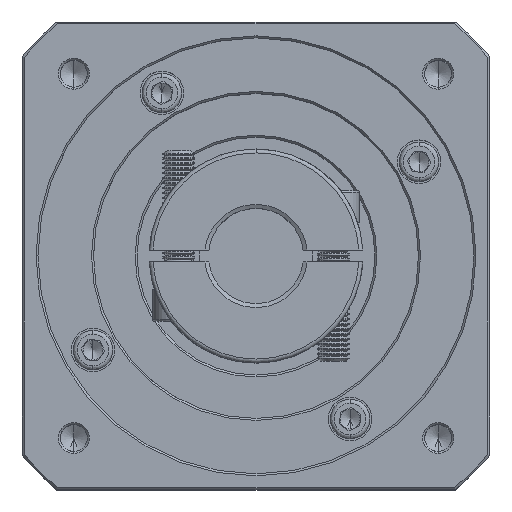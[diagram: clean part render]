
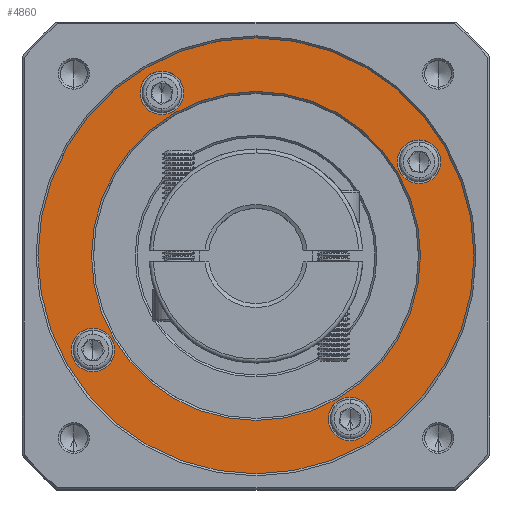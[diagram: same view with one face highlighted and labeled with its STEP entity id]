
A CAD part, top view. The second image highlights one B-rep face of the part: STEP entity #4860.
In plain terms, the highlighted planar face has unit normal (0, 0, 1).
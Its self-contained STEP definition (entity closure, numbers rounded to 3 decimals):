
#682 = EDGE_CURVE ( 'NONE', #51745, #90362, #82465, .T. ) ;
#3137 = VERTEX_POINT ( 'NONE', #127673 ) ;
#4860 = ADVANCED_FACE ( 'NONE', ( #92133, #119544, #23150, #55207, #58375, #34338 ), #66353, .T. ) ;
#5137 = DIRECTION ( 'NONE',  ( 0., 0., 1. ) ) ;
#5364 = DIRECTION ( 'NONE',  ( 0., 0., -1. ) ) ;
#6178 = EDGE_CURVE ( 'NONE', #55291, #3137, #8045, .T. ) ;
#7031 = ORIENTED_EDGE ( 'NONE', *, *, #682, .T. ) ;
#7765 = EDGE_CURVE ( 'NONE', #110105, #104105, #73762, .T. ) ;
#8045 = CIRCLE ( 'NONE', #103155, 5.5 ) ;
#8266 = AXIS2_PLACEMENT_3D ( 'NONE', #122674, #51636, #61518 ) ;
#8765 = VERTEX_POINT ( 'NONE', #79054 ) ;
#8987 = ORIENTED_EDGE ( 'NONE', *, *, #121256, .T. ) ;
#14216 = CARTESIAN_POINT ( 'NONE',  ( 72.579, 11.299, -18.676 ) ) ;
#15156 = EDGE_LOOP ( 'NONE', ( #33285, #80033 ) ) ;
#15269 = CIRCLE ( 'NONE', #8266, 5.5 ) ;
#16286 = VERTEX_POINT ( 'NONE', #39986 ) ;
#23150 = FACE_BOUND ( 'NONE', #76602, .T. ) ;
#23385 = CARTESIAN_POINT ( 'NONE',  ( 25.079, 93.571, -18.676 ) ) ;
#23884 = EDGE_CURVE ( 'NONE', #76050, #115870, #44590, .T. ) ;
#24497 = DIRECTION ( 'NONE',  ( 0., 0., -1. ) ) ;
#24575 = ORIENTED_EDGE ( 'NONE', *, *, #23884, .T. ) ;
#24796 = EDGE_CURVE ( 'NONE', #3137, #55291, #69741, .T. ) ;
#24960 = DIRECTION ( 'NONE',  ( 0., 0., 1. ) ) ;
#25798 = DIRECTION ( 'NONE',  ( 0., 1., 0. ) ) ;
#26373 = DIRECTION ( 'NONE',  ( 0., 0., 1. ) ) ;
#27240 = DIRECTION ( 'NONE',  ( 0., 1., 0. ) ) ;
#27797 = CIRCLE ( 'NONE', #105756, 5.5 ) ;
#28454 = ORIENTED_EDGE ( 'NONE', *, *, #79351, .T. ) ;
#29614 = VERTEX_POINT ( 'NONE', #30269 ) ;
#30269 = CARTESIAN_POINT ( 'NONE',  ( 90.329, 52.435, -18.676 ) ) ;
#31413 = DIRECTION ( 'NONE',  ( 0., 1., 0. ) ) ;
#33285 = ORIENTED_EDGE ( 'NONE', *, *, #24796, .T. ) ;
#34338 = FACE_BOUND ( 'NONE', #15156, .T. ) ;
#35285 = DIRECTION ( 'NONE',  ( 0., 1., 0. ) ) ;
#35795 = AXIS2_PLACEMENT_3D ( 'NONE', #57787, #26373, #27240 ) ;
#37444 = EDGE_LOOP ( 'NONE', ( #53132, #28454 ) ) ;
#37706 = DIRECTION ( 'NONE',  ( 1., 0., 0. ) ) ;
#39986 = CARTESIAN_POINT ( 'NONE',  ( 48.829, -2.565, -18.676 ) ) ;
#44590 = CIRCLE ( 'NONE', #68986, 5.5 ) ;
#44920 = CARTESIAN_POINT ( 'NONE',  ( 72.579, 11.299, -18.676 ) ) ;
#46072 = AXIS2_PLACEMENT_3D ( 'NONE', #44920, #5364, #107412 ) ;
#50078 = CARTESIAN_POINT ( 'NONE',  ( 48.829, 52.435, -18.676 ) ) ;
#50481 = DIRECTION ( 'NONE',  ( 0., 1., 0. ) ) ;
#51636 = DIRECTION ( 'NONE',  ( 0., 0., -1. ) ) ;
#51745 = VERTEX_POINT ( 'NONE', #110663 ) ;
#53132 = ORIENTED_EDGE ( 'NONE', *, *, #78058, .T. ) ;
#53270 = DIRECTION ( 'NONE',  ( 0., 1., 0. ) ) ;
#53389 = AXIS2_PLACEMENT_3D ( 'NONE', #50078, #112136, #92286 ) ;
#54573 = CIRCLE ( 'NONE', #90884, 41.5 ) ;
#54810 = DIRECTION ( 'NONE',  ( 0., 0., -1. ) ) ;
#55207 = FACE_BOUND ( 'NONE', #101432, .T. ) ;
#55291 = VERTEX_POINT ( 'NONE', #119147 ) ;
#57787 = CARTESIAN_POINT ( 'NONE',  ( 48.829, 52.435, -18.676 ) ) ;
#58375 = FACE_BOUND ( 'NONE', #74592, .T. ) ;
#61518 = DIRECTION ( 'NONE',  ( 0., 1., 0. ) ) ;
#62142 = CARTESIAN_POINT ( 'NONE',  ( 7.692, 23.185, -18.676 ) ) ;
#63642 = DIRECTION ( 'NONE',  ( 0., 0., -1. ) ) ;
#64496 = DIRECTION ( 'NONE',  ( 0., 1., 0. ) ) ;
#65133 = DIRECTION ( 'NONE',  ( 0., 1., 0. ) ) ;
#66353 = PLANE ( 'NONE',  #35795 ) ;
#68986 = AXIS2_PLACEMENT_3D ( 'NONE', #70717, #133249, #50481 ) ;
#69710 = EDGE_LOOP ( 'NONE', ( #114387, #8987 ) ) ;
#69741 = CIRCLE ( 'NONE', #46072, 5.5 ) ;
#70717 = CARTESIAN_POINT ( 'NONE',  ( 25.079, 93.571, -18.676 ) ) ;
#70731 = CARTESIAN_POINT ( 'NONE',  ( 89.965, 76.185, -18.676 ) ) ;
#70748 = AXIS2_PLACEMENT_3D ( 'NONE', #76569, #5137, #25798 ) ;
#73762 = CIRCLE ( 'NONE', #130851, 5.5 ) ;
#74592 = EDGE_LOOP ( 'NONE', ( #113362, #131336 ) ) ;
#75698 = CARTESIAN_POINT ( 'NONE',  ( 48.829, 52.435, -18.676 ) ) ;
#76050 = VERTEX_POINT ( 'NONE', #99835 ) ;
#76432 = CARTESIAN_POINT ( 'NONE',  ( 25.079, 99.071, -18.676 ) ) ;
#76569 = CARTESIAN_POINT ( 'NONE',  ( 48.829, 52.435, -18.676 ) ) ;
#76602 = EDGE_LOOP ( 'NONE', ( #118025, #24575 ) ) ;
#76833 = CIRCLE ( 'NONE', #53389, 41.5 ) ;
#78058 = EDGE_CURVE ( 'NONE', #8765, #16286, #103635, .T. ) ;
#79054 = CARTESIAN_POINT ( 'NONE',  ( 48.829, 107.435, -18.676 ) ) ;
#79351 = EDGE_CURVE ( 'NONE', #16286, #8765, #112770, .T. ) ;
#80033 = ORIENTED_EDGE ( 'NONE', *, *, #6178, .T. ) ;
#82465 = CIRCLE ( 'NONE', #104221, 5.5 ) ;
#83354 = DIRECTION ( 'NONE',  ( 0., 1., 0. ) ) ;
#88851 = DIRECTION ( 'NONE',  ( 0., 0., -1. ) ) ;
#90362 = VERTEX_POINT ( 'NONE', #101304 ) ;
#90884 = AXIS2_PLACEMENT_3D ( 'NONE', #98362, #88851, #37706 ) ;
#91804 = DIRECTION ( 'NONE',  ( 0., 0., -1. ) ) ;
#92133 = FACE_OUTER_BOUND ( 'NONE', #37444, .T. ) ;
#92286 = DIRECTION ( 'NONE',  ( 1., 0., 0. ) ) ;
#93819 = DIRECTION ( 'NONE',  ( 0., 0., -1. ) ) ;
#94421 = VERTEX_POINT ( 'NONE', #111638 ) ;
#95575 = ORIENTED_EDGE ( 'NONE', *, *, #101546, .T. ) ;
#96634 = EDGE_CURVE ( 'NONE', #115870, #76050, #27797, .T. ) ;
#98362 = CARTESIAN_POINT ( 'NONE',  ( 48.829, 52.435, -18.676 ) ) ;
#99835 = CARTESIAN_POINT ( 'NONE',  ( 25.079, 88.071, -18.676 ) ) ;
#101304 = CARTESIAN_POINT ( 'NONE',  ( 89.965, 70.685, -18.676 ) ) ;
#101432 = EDGE_LOOP ( 'NONE', ( #7031, #95575 ) ) ;
#101546 = EDGE_CURVE ( 'NONE', #90362, #51745, #15269, .T. ) ;
#102255 = CIRCLE ( 'NONE', #122832, 5.5 ) ;
#103155 = AXIS2_PLACEMENT_3D ( 'NONE', #14216, #24497, #35285 ) ;
#103635 = CIRCLE ( 'NONE', #132618, 55. ) ;
#104105 = VERTEX_POINT ( 'NONE', #119474 ) ;
#104221 = AXIS2_PLACEMENT_3D ( 'NONE', #70731, #91804, #53270 ) ;
#105756 = AXIS2_PLACEMENT_3D ( 'NONE', #23385, #54810, #65133 ) ;
#107412 = DIRECTION ( 'NONE',  ( 0., 1., 0. ) ) ;
#110105 = VERTEX_POINT ( 'NONE', #62142 ) ;
#110663 = CARTESIAN_POINT ( 'NONE',  ( 89.965, 81.685, -18.676 ) ) ;
#111638 = CARTESIAN_POINT ( 'NONE',  ( 7.329, 52.435, -18.676 ) ) ;
#112136 = DIRECTION ( 'NONE',  ( 0., 0., -1. ) ) ;
#112770 = CIRCLE ( 'NONE', #70748, 55. ) ;
#113186 = CARTESIAN_POINT ( 'NONE',  ( 7.692, 28.685, -18.676 ) ) ;
#113362 = ORIENTED_EDGE ( 'NONE', *, *, #122171, .T. ) ;
#114387 = ORIENTED_EDGE ( 'NONE', *, *, #117015, .T. ) ;
#115870 = VERTEX_POINT ( 'NONE', #76432 ) ;
#117015 = EDGE_CURVE ( 'NONE', #29614, #94421, #76833, .T. ) ;
#118025 = ORIENTED_EDGE ( 'NONE', *, *, #96634, .T. ) ;
#119147 = CARTESIAN_POINT ( 'NONE',  ( 72.579, 5.799, -18.676 ) ) ;
#119474 = CARTESIAN_POINT ( 'NONE',  ( 7.692, 34.185, -18.676 ) ) ;
#119544 = FACE_BOUND ( 'NONE', #69710, .T. ) ;
#121256 = EDGE_CURVE ( 'NONE', #94421, #29614, #54573, .T. ) ;
#122171 = EDGE_CURVE ( 'NONE', #104105, #110105, #102255, .T. ) ;
#122674 = CARTESIAN_POINT ( 'NONE',  ( 89.965, 76.185, -18.676 ) ) ;
#122832 = AXIS2_PLACEMENT_3D ( 'NONE', #113186, #93819, #31413 ) ;
#125234 = CARTESIAN_POINT ( 'NONE',  ( 7.692, 28.685, -18.676 ) ) ;
#127673 = CARTESIAN_POINT ( 'NONE',  ( 72.579, 16.799, -18.676 ) ) ;
#130851 = AXIS2_PLACEMENT_3D ( 'NONE', #125234, #63642, #83354 ) ;
#131336 = ORIENTED_EDGE ( 'NONE', *, *, #7765, .T. ) ;
#132618 = AXIS2_PLACEMENT_3D ( 'NONE', #75698, #24960, #64496 ) ;
#133249 = DIRECTION ( 'NONE',  ( 0., 0., -1. ) ) ;
